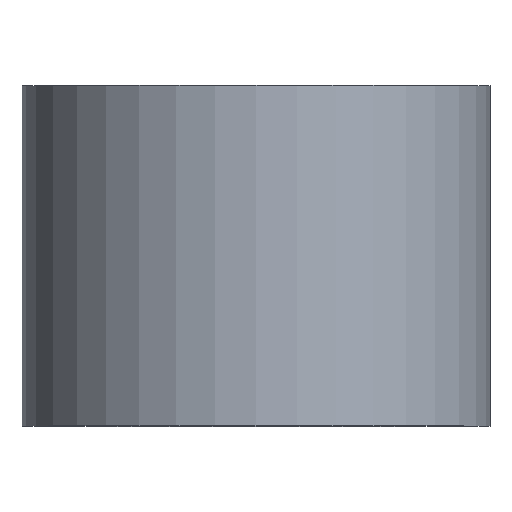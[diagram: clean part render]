
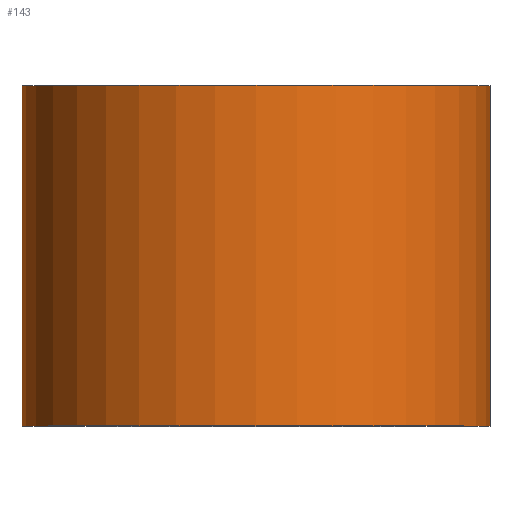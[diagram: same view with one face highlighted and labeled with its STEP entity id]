
A CAD part, top view. The second image highlights one B-rep face of the part: STEP entity #143.
In plain terms, the highlighted cylindrical face has radius 11 mm (diameter 22 mm), a partial arc.
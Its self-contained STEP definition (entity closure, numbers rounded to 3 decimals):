
#5 = CARTESIAN_POINT ( 'NONE',  ( 0., 0., 0. ) ) ;
#7 = LINE ( 'NONE', #23, #239 ) ;
#11 = VECTOR ( 'NONE', #216, 1000. ) ;
#14 = EDGE_CURVE ( 'NONE', #83, #132, #7, .T. ) ;
#17 = EDGE_CURVE ( 'NONE', #96, #114, #235, .T. ) ;
#20 = DIRECTION ( 'NONE',  ( 0., 1., 0. ) ) ;
#23 = CARTESIAN_POINT ( 'NONE',  ( 11., 0., 0. ) ) ;
#25 = DIRECTION ( 'NONE',  ( 0., 1., 0. ) ) ;
#35 = ORIENTED_EDGE ( 'NONE', *, *, #17, .F. ) ;
#40 = AXIS2_PLACEMENT_3D ( 'NONE', #5, #20, #292 ) ;
#44 = CARTESIAN_POINT ( 'NONE',  ( 11., 0., 0. ) ) ;
#55 = CYLINDRICAL_SURFACE ( 'NONE', #40, 11. ) ;
#57 = DIRECTION ( 'NONE',  ( -1., 0., 0. ) ) ;
#83 = VERTEX_POINT ( 'NONE', #44 ) ;
#96 = VERTEX_POINT ( 'NONE', #125 ) ;
#101 = CIRCLE ( 'NONE', #200, 11. ) ;
#114 = VERTEX_POINT ( 'NONE', #127 ) ;
#125 = CARTESIAN_POINT ( 'NONE',  ( -11., 0., 0. ) ) ;
#127 = CARTESIAN_POINT ( 'NONE',  ( -11., 16., 0. ) ) ;
#132 = VERTEX_POINT ( 'NONE', #167 ) ;
#133 = EDGE_LOOP ( 'NONE', ( #187, #289, #215, #35 ) ) ;
#140 = CARTESIAN_POINT ( 'NONE',  ( 0., 16., 0. ) ) ;
#143 = ADVANCED_FACE ( 'NONE', ( #284 ), #55, .T. ) ;
#146 = DIRECTION ( 'NONE',  ( 0., 1., 0. ) ) ;
#157 = DIRECTION ( 'NONE',  ( 0., 1., 0. ) ) ;
#167 = CARTESIAN_POINT ( 'NONE',  ( 11., 16., 0. ) ) ;
#187 = ORIENTED_EDGE ( 'NONE', *, *, #252, .T. ) ;
#200 = AXIS2_PLACEMENT_3D ( 'NONE', #140, #146, #57 ) ;
#206 = EDGE_CURVE ( 'NONE', #114, #132, #101, .T. ) ;
#215 = ORIENTED_EDGE ( 'NONE', *, *, #206, .F. ) ;
#216 = DIRECTION ( 'NONE',  ( 0., 1., 0. ) ) ;
#217 = AXIS2_PLACEMENT_3D ( 'NONE', #296, #157, #300 ) ;
#235 = LINE ( 'NONE', #246, #11 ) ;
#239 = VECTOR ( 'NONE', #25, 1000. ) ;
#245 = CIRCLE ( 'NONE', #217, 11. ) ;
#246 = CARTESIAN_POINT ( 'NONE',  ( -11., 0., 0. ) ) ;
#252 = EDGE_CURVE ( 'NONE', #96, #83, #245, .T. ) ;
#284 = FACE_OUTER_BOUND ( 'NONE', #133, .T. ) ;
#289 = ORIENTED_EDGE ( 'NONE', *, *, #14, .T. ) ;
#292 = DIRECTION ( 'NONE',  ( -1., 0., 0. ) ) ;
#296 = CARTESIAN_POINT ( 'NONE',  ( 0., 0., 0. ) ) ;
#300 = DIRECTION ( 'NONE',  ( -1., 0., 0. ) ) ;
